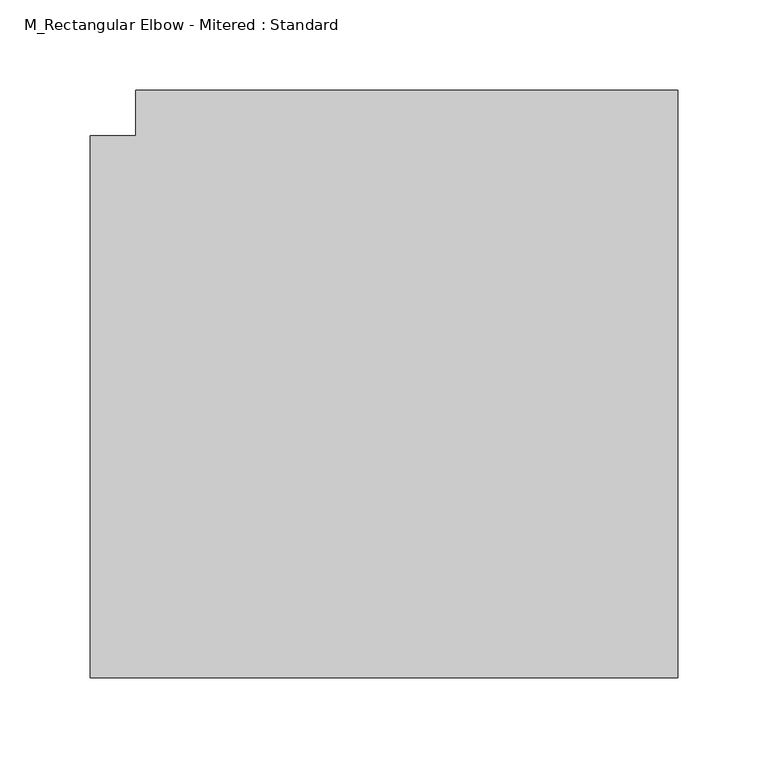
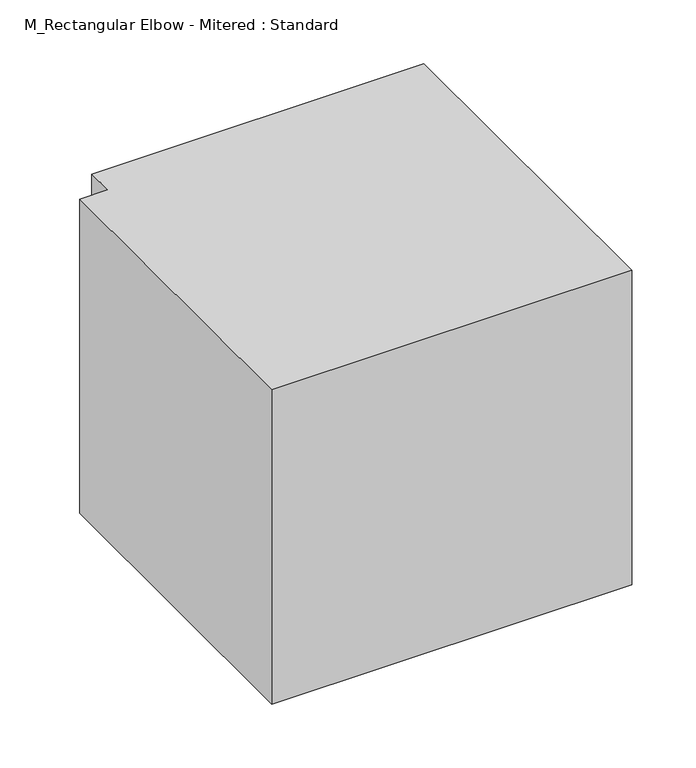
"""IFC4 building model written with IfcOpenShell, lengths in millimetres: duct fitting geometry, M_Rectangular Elbow - Mitered : Standard."""

import ifcopenshell
import ifcopenshell.guid

model = None  # the IFC model being written
_history = None  # IfcOwnerHistory: only IFC2X3 demands one
_inside = {}  # id of a spatial element -> (the spatial element, [elements in it])
_under = {}  # id of a project, library or spatial element -> (it, [spatial elements below it])
_declared = {}  # id of a project -> (the project, [libraries it declares])
_typed = {}  # id of a type object -> (the type object, [elements of that type])
_made_of = {}  # id of a material, layer set ... -> (it, [elements and type objects made of it])


def new_model(schema):
    """Start an empty IFC model of exactly this schema.

    Asked for "IFC4X3", IfcOpenShell would pick the latest addendum, in which some entities
    have other attributes; the version numbers below select the first issue.
    IFC2X3 requires an IfcOwnerHistory on every rooted entity: one is made here for all.
    """
    global model, _history
    if schema == "IFC4X3":
        model = ifcopenshell.file(schema_version=(4, 3, 0, 0))
    else:
        model = ifcopenshell.file(schema=schema)
    _inside.clear()
    _under.clear()
    _declared.clear()
    _typed.clear()
    _made_of.clear()
    _history = None
    if model.schema == "IFC2X3":
        org = make("IfcOrganization", Name="unknown")
        user = make(
            "IfcPersonAndOrganization",
            ThePerson=make("IfcPerson", FamilyName="unknown"),
            TheOrganization=org,
        )
        app = make(
            "IfcApplication",
            ApplicationDeveloper=org,
            Version="unknown",
            ApplicationFullName="unknown",
            ApplicationIdentifier="unknown",
        )
        _history = make(
            "IfcOwnerHistory",
            OwningUser=user,
            OwningApplication=app,
            ChangeAction="ADDED",
            CreationDate=0,
        )
    return model


def make(cls, **values):
    """One entity of the class cls with the attributes given. An attribute that is None is left unset."""
    return model.create_entity(
        cls, **{name: value for name, value in values.items() if value is not None}
    )


def rooted(cls, **values):
    """An entity with a GlobalId (a new one), such as an element, a storey or a relation."""
    return make(cls, GlobalId=ifcopenshell.guid.new(), OwnerHistory=_history, **values)


def si_unit(unit_type, name, prefix=None):
    """IfcSIUnit, for example si_unit("LENGTHUNIT", "METRE", prefix="MILLI")."""
    return make("IfcSIUnit", UnitType=unit_type, Prefix=prefix, Name=name)


def assignment(units):
    """IfcUnitAssignment: the units of a project."""
    return None if units is None else make("IfcUnitAssignment", Units=units)


def point(xyz):
    """IfcCartesianPoint."""
    return None if xyz is None else make("IfcCartesianPoint", Coordinates=xyz)


def direction(xyz):
    """IfcDirection."""
    return None if xyz is None else make("IfcDirection", DirectionRatios=xyz)


def frame(location, z_axis=None, x_axis=None):
    """IfcAxis2Placement3D, a coordinate frame: its origin and axes. An axis left out is left unset."""
    return make(
        "IfcAxis2Placement3D",
        Location=point(location),
        Axis=direction(z_axis),
        RefDirection=direction(x_axis),
    )


def origin():
    """The frame at (0, 0, 0) with its axes left unset."""
    return frame((0.0, 0.0, 0.0))


def place(relative_to, where):
    """IfcLocalPlacement: puts the frame where relative to a parent placement (None: the world)."""
    return make(
        "IfcLocalPlacement", PlacementRelTo=relative_to, RelativePlacement=where
    )


def context(
    kind, dimensions, precision=None, world=None, true_north=None, identifier=None
):
    """IfcGeometricRepresentationContext, for example the 3D "Model" context."""
    return make(
        "IfcGeometricRepresentationContext",
        ContextIdentifier=identifier,
        ContextType=kind,
        CoordinateSpaceDimension=dimensions,
        Precision=precision,
        WorldCoordinateSystem=world,
        TrueNorth=true_north,
    )


def project(units=None, contexts=None):
    """IfcProject with its units and contexts."""
    return rooted(
        "IfcProject",
        Name="project",
        RepresentationContexts=contexts,
        UnitsInContext=assignment(units),
    )


def spatial(cls, under=None, at=None, **own):
    """A site, building, storey or space (cls), placed at a placement, below another one or the project."""
    s = rooted(cls, ObjectPlacement=at, **own)
    if under is not None:
        _under.setdefault(under.id(), (under, []))[1].append(s)
    return s


def polyline(points):
    """IfcPolyline through the points."""
    return make("IfcPolyline", Points=[point(p) for p in points])


def outline(outer, holes=None, kind="AREA"):
    """IfcArbitraryClosedProfileDef: a profile drawn as a closed curve; with holes, ...WithVoids."""
    if holes is None:
        return make("IfcArbitraryClosedProfileDef", ProfileType=kind, OuterCurve=outer)
    return make(
        "IfcArbitraryProfileDefWithVoids",
        ProfileType=kind,
        OuterCurve=outer,
        InnerCurves=holes,
    )


def extrude(swept, where, along, depth):
    """IfcExtrudedAreaSolid: the profile swept, set in the frame where, extruded along a direction by depth."""
    return make(
        "IfcExtrudedAreaSolid",
        SweptArea=swept,
        Position=where,
        ExtrudedDirection=direction(along),
        Depth=depth,
    )


def shape(context_of_items, identifier, shape_type, items):
    """IfcShapeRepresentation: the items that make up one representation, for example the "Body"."""
    return make(
        "IfcShapeRepresentation",
        ContextOfItems=context_of_items,
        RepresentationIdentifier=identifier,
        RepresentationType=shape_type,
        Items=items,
    )


def source(mapping_origin, context_of_items, identifier, shape_type, items):
    """IfcRepresentationMap: a shape defined once, which mapped items show again and again."""
    return make(
        "IfcRepresentationMap",
        MappingOrigin=mapping_origin,
        MappedRepresentation=shape(context_of_items, identifier, shape_type, items),
    )


def transform(
    local_origin,
    x_axis=None,
    y_axis=None,
    z_axis=None,
    scale=None,
    scale2=None,
    scale3=None,
    uniform=True,
):
    """IfcCartesianTransformationOperator3D, or its non-uniform kind. x_axis, y_axis, z_axis: its Axis1, 2, 3."""
    if uniform:
        return make(
            "IfcCartesianTransformationOperator3D",
            Axis1=direction(x_axis),
            Axis2=direction(y_axis),
            LocalOrigin=point(local_origin),
            Scale=scale,
            Axis3=direction(z_axis),
        )
    return make(
        "IfcCartesianTransformationOperator3DnonUniform",
        Axis1=direction(x_axis),
        Axis2=direction(y_axis),
        LocalOrigin=point(local_origin),
        Scale=scale,
        Axis3=direction(z_axis),
        Scale2=scale2,
        Scale3=scale3,
    )


def mapped(mapping_source, mapping_target):
    """IfcMappedItem: shows the shape of a source again, moved by a transform."""
    return make(
        "IfcMappedItem", MappingSource=mapping_source, MappingTarget=mapping_target
    )


def made_of(thing, what):
    """Note that an element or type object is made of a material, layer set ...; save() writes the relation."""
    if what is not None:
        _made_of.setdefault(what.id(), (what, []))[1].append(thing)
    return thing


def element(
    cls,
    number,
    at=None,
    inside=None,
    cuts=None,
    type_object=None,
    material=None,
    context=None,
    identifier="Body",
    shape_type=None,
    held_by="IfcProductDefinitionShape",
    body=None,
    shapes=None,
    **own,
):
    """One element of the class cls, such as IfcWall. Its Tag is "e" and its number.

    at: its placement. inside: the storey or other place that contains it. cuts: it is an
    opening in that element (IfcRelVoidsElement). A single representation is given by context,
    identifier, shape_type and body (its items); several are given by shapes. held_by: the class
    of the entity that holds the representations. save() writes the other relations.
    """
    e = rooted(cls, Tag="e%d" % number, ObjectPlacement=at, **own)
    if body is not None:
        shapes = [shape(context, identifier, shape_type, body)]
    if shapes is not None:
        e.Representation = make(held_by, Representations=shapes)
    if inside is not None:
        _inside.setdefault(inside.id(), (inside, []))[1].append(e)
    if cuts is not None:
        rooted(
            "IfcRelVoidsElement", RelatingBuildingElement=cuts, RelatedOpeningElement=e
        )
    if type_object is not None:
        _typed.setdefault(type_object.id(), (type_object, []))[1].append(e)
    return made_of(e, material)


def aggregate(whole, parts):
    """IfcRelAggregates: a whole, such as a stair, and the parts it consists of."""
    return rooted("IfcRelAggregates", RelatingObject=whole, RelatedObjects=parts)


def save(model, path):
    """Write the relations noted so far, then the file.

    IfcRelAggregates (storeys below a building ...), IfcRelContainedInSpatialStructure (elements
    in a storey), IfcRelDefinesByType, IfcRelAssociatesMaterial and IfcRelDeclares: one each for
    every whole, place, type object, material and project.
    """
    for whole, parts in _under.values():
        aggregate(whole, parts)
    for where, things in _inside.values():
        rooted(
            "IfcRelContainedInSpatialStructure",
            RelatedElements=things,
            RelatingStructure=where,
        )
    for kind, things in _typed.values():
        rooted("IfcRelDefinesByType", RelatedObjects=things, RelatingType=kind)
    for what, things in _made_of.values():
        rooted("IfcRelAssociatesMaterial", RelatedObjects=things, RelatingMaterial=what)
    for by, libraries in _declared.values():
        rooted("IfcRelDeclares", RelatingContext=by, RelatedDefinitions=libraries)
    model.write(path)


def m_rectangular_elbow_mitered_standard_9f5ff9b0(model_context):
    return source(origin(), model_context, "Body", "SweptSolid", [
        extrude(outline(polyline([(-174.9993564, -150.0), (-174.9993564, 150.0), (-149.9993564, 150.0), (-149.9992491, 175.0), (150.0007509, 174.9987127), (149.9993564, -150.0), (-174.9993564, -150.0)])), frame((0.0, 0.0, -150.0), z_axis=(0.0, 0.0, 1.0), x_axis=(1.0, 0.0, 0.0)), (0.0, 0.0, 1.0), 300.0),
        extrude(outline(polyline([(-174.9993564, -150.0), (-174.9993564, 150.0), (-149.9993564, 150.0), (-149.9992491, 175.0), (150.0007509, 174.9987127), (149.9993564, -150.0), (-174.9993564, -150.0)])), frame((0.0, 0.0, -150.0), z_axis=(0.0, 0.0, 1.0), x_axis=(1.0, 0.0, 0.0)), (0.0, 0.0, 1.0), 300.0),
        extrude(outline(polyline([(-174.9993564, -150.0), (-174.9993564, 150.0), (-149.9993564, 150.0), (-149.9992491, 175.0), (150.0007509, 174.9987127), (149.9993564, -150.0), (-174.9993564, -150.0)])), frame((0.0, 0.0, -150.0), z_axis=(0.0, 0.0, 1.0), x_axis=(1.0, 0.0, 0.0)), (0.0, 0.0, 1.0), 300.0),
    ])


if __name__ == "__main__":
    model = new_model("IFC4")
    model_context = context("Model", 3, world=origin())
    ifc_project = project(units=[si_unit("LENGTHUNIT", "METRE", prefix="MILLI")], contexts=[model_context])
    site = spatial("IfcSite", under=ifc_project)
    building = spatial("IfcBuilding", under=site)
    placement = place(None, origin())
    m_rectangular_elbow_mitered_standard_shape = m_rectangular_elbow_mitered_standard_9f5ff9b0(model_context)
    element("IfcDuctFitting", 1, ObjectType="M_Rectangular Elbow - Mitered : Standard", at=placement, inside=building, context=model_context, shape_type="MappedRepresentation", body=[
        mapped(m_rectangular_elbow_mitered_standard_shape, transform((0.0, 0.0, 0.0), x_axis=(1.0, 0.0, 0.0), y_axis=(0.0, 1.0, 0.0), z_axis=(0.0, 0.0, 1.0))),
    ])
    save(model, "model.ifc")
